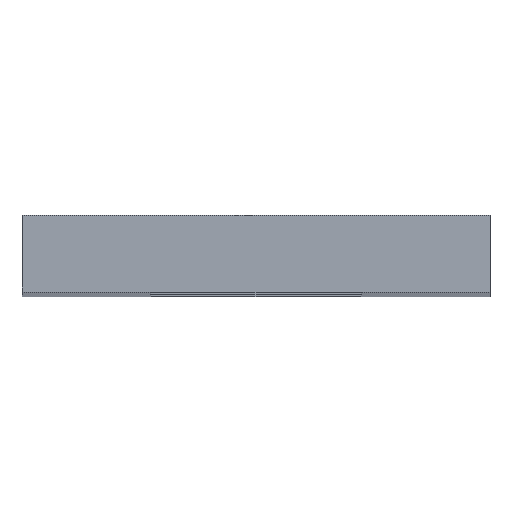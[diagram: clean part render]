
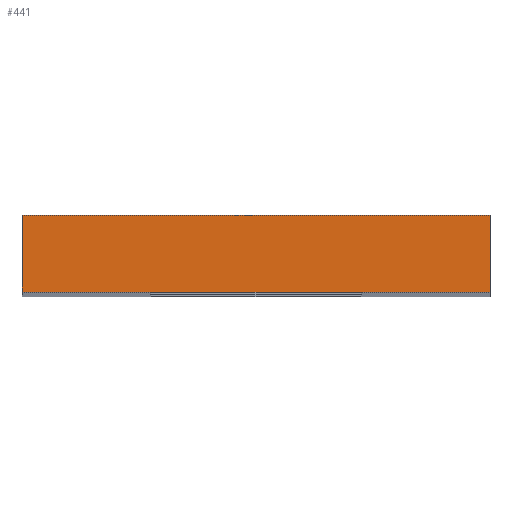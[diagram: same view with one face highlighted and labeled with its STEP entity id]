
A CAD part, top view. The second image highlights one B-rep face of the part: STEP entity #441.
In plain terms, the highlighted planar face has unit normal (0, 0, 1).
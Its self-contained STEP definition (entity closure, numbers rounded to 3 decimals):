
#120=DIRECTION('',(1.,0.,0.));
#121=VECTOR('',#120,30.);
#122=CARTESIAN_POINT('',(-15.,0.,88.));
#123=LINE('',#122,#121);
#182=DIRECTION('',(0.,1.,0.));
#183=VECTOR('',#182,4.93);
#184=CARTESIAN_POINT('',(15.,0.,88.));
#185=LINE('',#184,#183);
#186=DIRECTION('',(0.,1.,0.));
#187=VECTOR('',#186,4.93);
#188=CARTESIAN_POINT('',(-15.,0.,88.));
#189=LINE('',#188,#187);
#202=DIRECTION('',(1.,0.,0.));
#203=VECTOR('',#202,30.);
#204=CARTESIAN_POINT('',(-15.,4.93,88.));
#205=LINE('',#204,#203);
#289=CARTESIAN_POINT('',(-15.,0.,88.));
#291=VERTEX_POINT('',#289);
#292=CARTESIAN_POINT('',(15.,0.,88.));
#293=VERTEX_POINT('',#292);
#297=CARTESIAN_POINT('',(-15.,4.93,88.));
#299=VERTEX_POINT('',#297);
#300=CARTESIAN_POINT('',(15.,4.93,88.));
#301=VERTEX_POINT('',#300);
#429=CARTESIAN_POINT('',(-15.,0.,88.));
#430=DIRECTION('',(0.,0.,1.));
#431=DIRECTION('',(1.,0.,0.));
#432=AXIS2_PLACEMENT_3D('',#429,#430,#431);
#433=PLANE('',#432);
#434=ORIENTED_EDGE('',*,*,#351,.F.);
#435=ORIENTED_EDGE('',*,*,#396,.T.);
#437=ORIENTED_EDGE('',*,*,#436,.T.);
#438=ORIENTED_EDGE('',*,*,#421,.F.);
#439=EDGE_LOOP('',(#434,#435,#437,#438));
#440=FACE_OUTER_BOUND('',#439,.F.);
#351=EDGE_CURVE('',#291,#293,#123,.T.);
#396=EDGE_CURVE('',#291,#299,#189,.T.);
#421=EDGE_CURVE('',#293,#301,#185,.T.);
#436=EDGE_CURVE('',#299,#301,#205,.T.);
#441=ADVANCED_FACE('',(#440),#433,.T.);
